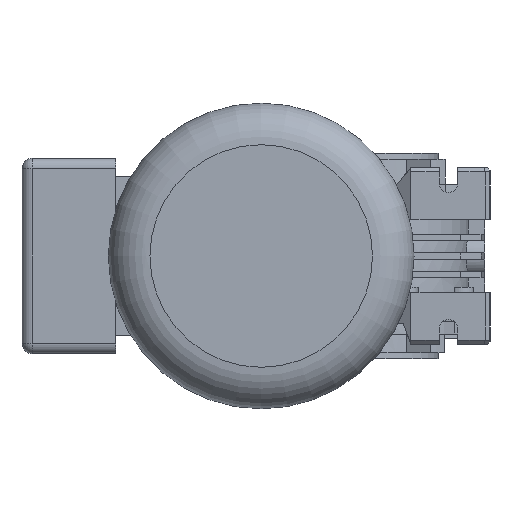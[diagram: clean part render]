
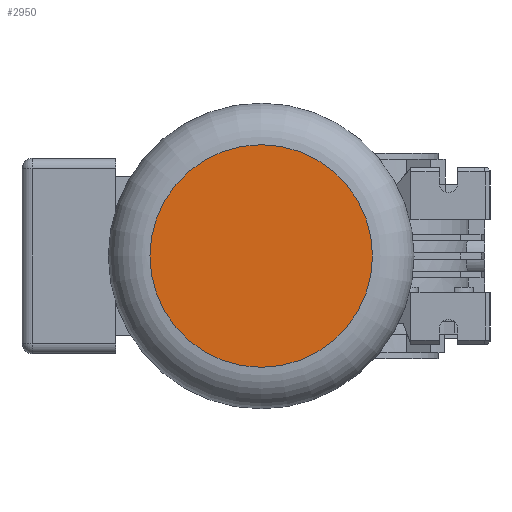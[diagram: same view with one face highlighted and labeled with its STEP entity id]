
A CAD part, left-side view. The second image highlights one B-rep face of the part: STEP entity #2950.
In plain terms, the highlighted planar face has unit normal (-1, 0, 0).
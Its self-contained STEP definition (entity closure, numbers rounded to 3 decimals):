
#2950 = ADVANCED_FACE( '', ( #6281 ), #6282, .T. );
#6281 = FACE_OUTER_BOUND( '', #9898, .T. );
#6282 = PLANE( '', #9899 );
#9898 = EDGE_LOOP( '', ( #19129 ) );
#9899 = AXIS2_PLACEMENT_3D( '', #19130, #19131, #19132 );
#19129 = ORIENTED_EDGE( '', *, *, #25205, .T. );
#19130 = CARTESIAN_POINT( '', ( -299., 50., 0. ) );
#19131 = DIRECTION( '', ( -1., 0., 0. ) );
#19132 = DIRECTION( '', ( 0., 1., 0. ) );
#25205 = EDGE_CURVE( '', #31410, #31410, #31411, .T. );
#31410 = VERTEX_POINT( '', #40363 );
#31411 = CIRCLE( '', #40364, 53.5 );
#40363 = CARTESIAN_POINT( '', ( -299., 103.5, 0. ) );
#40364 = AXIS2_PLACEMENT_3D( '', #44877, #44878, #44879 );
#44877 = CARTESIAN_POINT( '', ( -299., 50., 0. ) );
#44878 = DIRECTION( '', ( -1., 0., 0. ) );
#44879 = DIRECTION( '', ( 0., 1., 0. ) );
